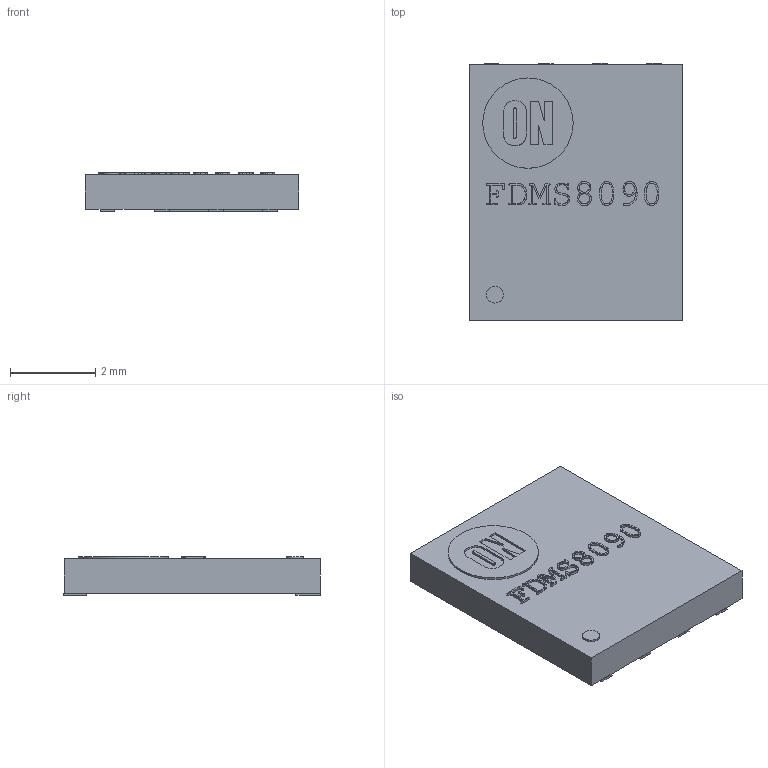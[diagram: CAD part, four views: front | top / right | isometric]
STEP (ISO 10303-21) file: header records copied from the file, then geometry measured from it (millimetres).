
FILE_DESCRIPTION(/* description */ (''),/* implementation_level */ '2;1');
FILE_NAME(/* name */ 'METUPowerLab_Transistors_MOSFETs_8-MLP(5x6)_FDMS8090_.step',/* time_stamp */ '2025-07-09T15:02:49+03:00',/* author */ (''),/* organization */ (''),/* preprocessor_version */ 'ST-DEVELOPER v20.1',/* originating_system */ 'Autodesk Translation Framework v14.10.0.0',/* authorisation */ '');
FILE_SCHEMA (('AUTOMOTIVE_DESIGN { 1 0 10303 214 3 1 1 }'));
Length unit declared in the file: millimetre
Products named in the file (1): METUPowerLab_Transistors_MOSFETs_8-MLP(5x6)_FDMS8090
Bounding box: 5 x 6.03 x 0.9 mm (x, y, z)
Volume: 24.3 mm3; surface area: 80.7 mm2
Topology: 1 solids, 1 shells, 400 faces, 1121 edges, 742 vertices
Faces by surface type: bspline 252, plane 146, cylinder 2
Full cylindrical faces by diameter (mm): 0.395 x1, 2.117 x1
Entity records: 15027 total; most frequent: CARTESIAN_POINT 6452, ORIENTED_EDGE 2242, EDGE_CURVE 1121, DIRECTION 919, VERTEX_POINT 742, LINE 613, VECTOR 613, B_SPLINE_CURVE_WITH_KNOTS 456
